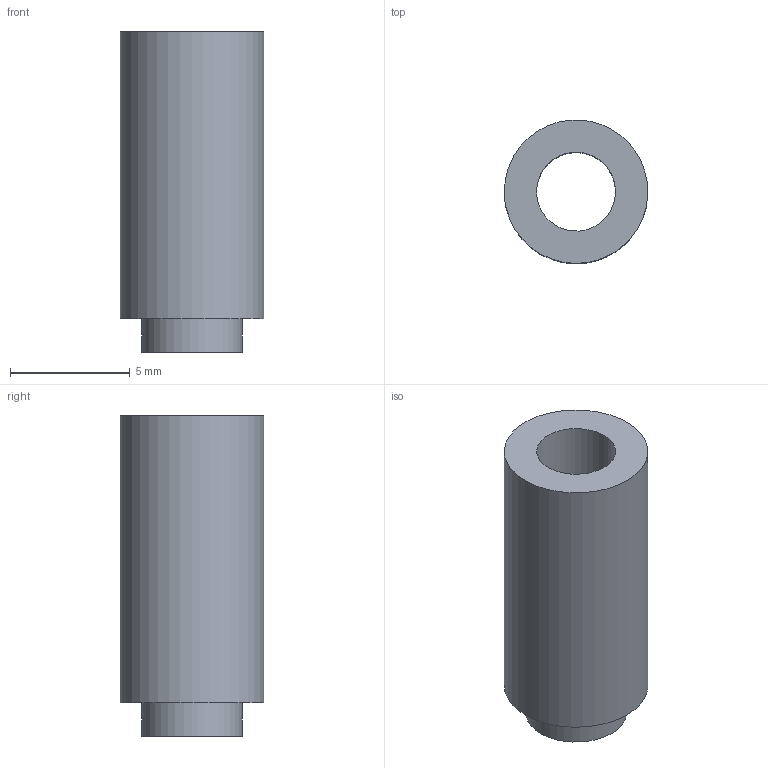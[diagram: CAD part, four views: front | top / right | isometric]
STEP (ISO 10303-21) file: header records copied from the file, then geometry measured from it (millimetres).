
FILE_DESCRIPTION(('FreeCAD Model'),'2;1');
FILE_NAME('Open CASCADE Shape Model','2026-03-20T17:23:28',('Author'),( ''),'Open CASCADE STEP processor 7.8','FreeCAD','Unknown');
FILE_SCHEMA(('AP242_MANAGED_MODEL_BASED_3D_ENGINEERING_MIM_LF. {1 0 10303 442 1 1 4 }'));
Length unit declared in the file: millimetre
Products named in the file (1): 1_transformed
Bounding box: 6 x 5.99 x 13.4 mm (x, y, z)
Volume: 246.1 mm3; surface area: 424.1 mm2
Topology: 1 solids, 1 shells, 6 faces, 9 edges, 6 vertices
Faces by surface type: bspline 6
Entity records: 201 total; most frequent: CARTESIAN_POINT 109, ORIENTED_EDGE 18, FACE_BOUND 9, EDGE_LOOP 9, EDGE_CURVE 9, ADVANCED_FACE 6, VERTEX_POINT 6, B_SPLINE_SURFACE_WITH_KNOTS 3
